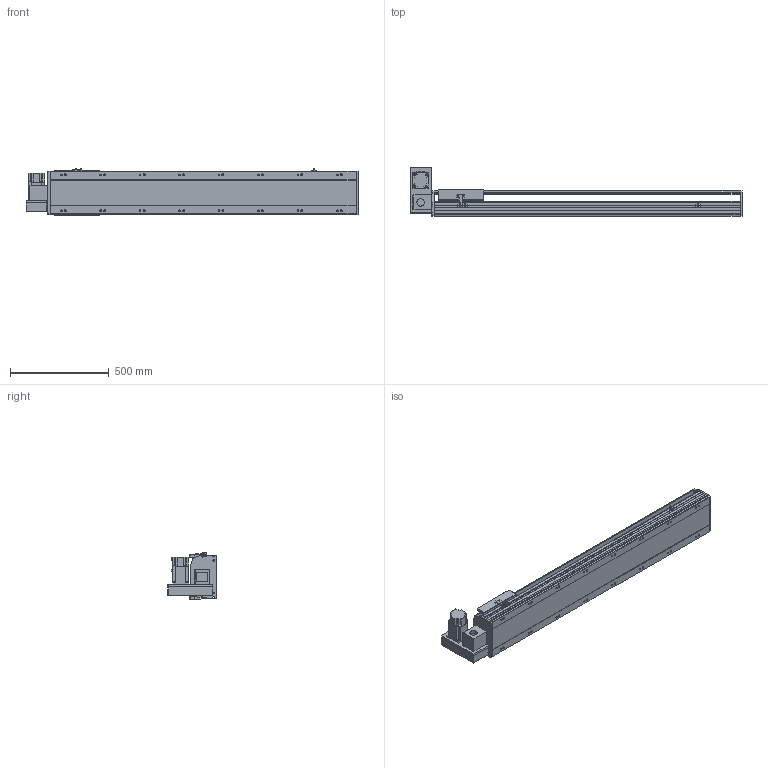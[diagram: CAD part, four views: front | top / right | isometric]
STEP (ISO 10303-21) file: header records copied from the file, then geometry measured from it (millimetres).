
FILE_DESCRIPTION(/* description */ ('STEP AP214'),/* implementation_level */ '2;1');
FILE_NAME(/* name */ 'PBS220-P40-S1200-LU-T75-C1-N(0)',/* time_stamp */ '2022-06-13T02:29:57+02:00',/* author */ ('License CC BY-ND 4.0'),/* organization */ ('CADENAS'),/* preprocessor_version */ 'ST-DEVELOPER v18.102',/* originating_system */ 'PARTsolutions',/* authorisation */ ' ');
FILE_SCHEMA (('AUTOMOTIVE_DESIGN {1 0 10303 214 3 1 1}'));
Length unit declared in the file: millimetre
Products named in the file (7): PBS220-P40-S1200-LU-T75-C1-N(0); PBS220_sensor; PBS220_plant; PBS220_sliser; T75-p1; PBS220T-LU_motors; PBS220-S1200()_body
Assembly tree (8 placements, depth 2):
  PBS220-P40-S1200-LU-T75-C1-N(0)
    PBS220_sensor  x3
    PBS220_plant
    PBS220_sliser
    T75-p1
    PBS220T-LU_motors
    PBS220-S1200()_body
Bounding box: 1684 x 247 x 238.5 mm (x, y, z)
Volume: 24155703.8 mm3; surface area: 2327982.5 mm2
Topology: 8 solids, 8 shells, 914 faces, 2396 edges, 1558 vertices
Faces by surface type: plane 598, cylinder 276, cone 40
Full cylindrical faces by diameter (mm): 2.013 x4, 4.5 x14, 4.917 x4, 6 x7, 6.647 x8, 8 x10, 8.376 x16, 8.5 x16, 10 x6, 14 x16, 38 x2, 40 x1, 70 x1
Entity records: 25629 total; most frequent: CARTESIAN_POINT 4492, DIRECTION 4455, ORIENTED_EDGE 4106, EDGE_CURVE 2053, AXIS2_PLACEMENT_3D 1555, VERTEX_POINT 1416, LINE 1345, VECTOR 1345
